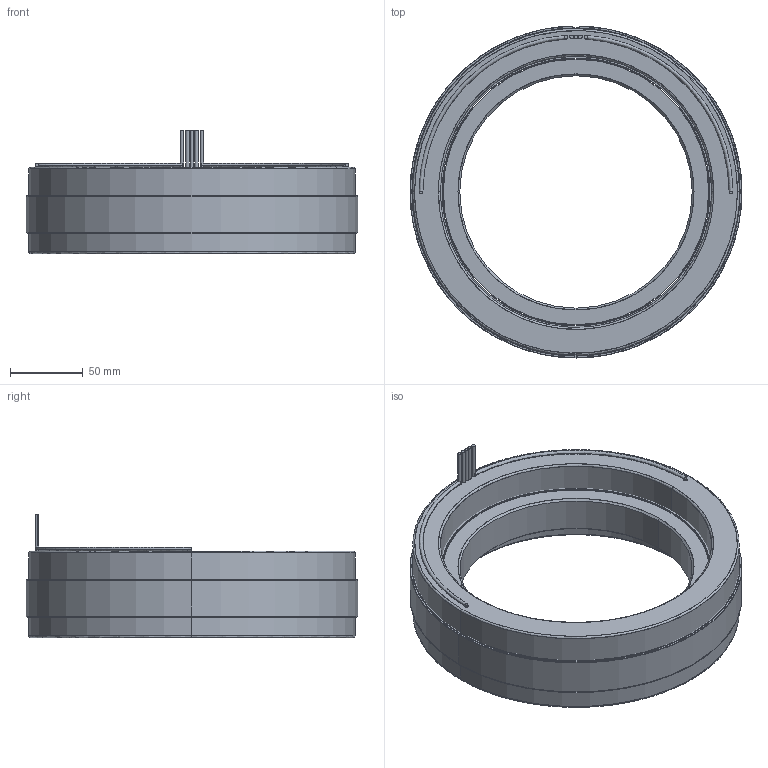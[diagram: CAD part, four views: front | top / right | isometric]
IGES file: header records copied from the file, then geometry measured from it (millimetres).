
Start section: SolidWorks IGES file using analytic representation for surfaces
Global section: file name: Z:\STANDARD STATOR ROTOR SETS\NEW DIRECT DRIVE MOTOR\9 OD 36S 32P\6100346-02.IGS; native system: SolidWorks 2016; preprocessor: SolidWorks 2016; author: eng; date: 191023.163453; units: millimetre
Bounding box: 228.6 x 228.58 x 85.09 mm (x, y, z)
Surface area: 317073.4 mm2 (no closed solid volume)
Topology: 0 solids, 0 shells, 98 faces, 2664 edges, 2664 vertices
Faces by surface type: revolution 56, bspline 42
